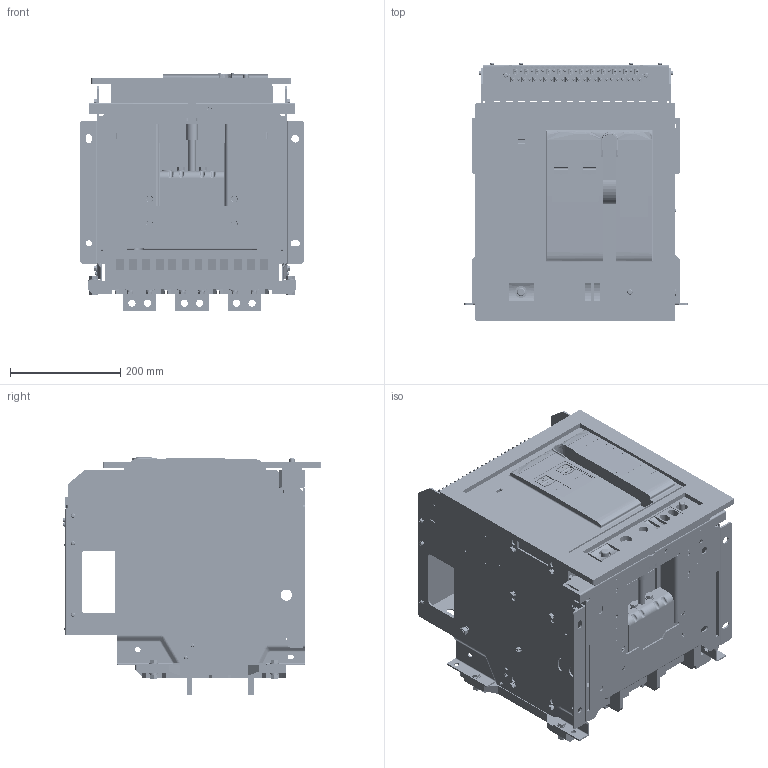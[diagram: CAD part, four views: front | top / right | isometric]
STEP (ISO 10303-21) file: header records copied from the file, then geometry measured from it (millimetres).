
FILE_DESCRIPTION (( 'STEP AP214' ), '1' );
FILE_NAME ('TENGEN_TGW1N-2000_3P_200A-630A_D.STEP', '2026-06-01T09:28:14', ( '' ), ( '' ), 'SwSTEP 2.0', 'SolidWorks 2024', '' );
FILE_SCHEMA (( 'AUTOMOTIVE_DESIGN' ));
Length unit declared in the file: millimetre
Products named in the file (34): 2000ZHAOKE_ASM_ASM_1_ASM_1_ASM.stp; PRT0004_1_1_1_1.stp; TENGEN_TGW45-2000_0002_ASM_1_AS_ASM.stp; PRT0009_1_1_1_1.stp; PRT0012_1_1_1_1.stp; ASM0002_ASM_1_ASM_1_ASM_1_ASM_1_ASM.stp; PRT0005_1_1_1_1.stp; TENGEN_TGW1N-2000_3P_200A-630A_D; PRT0023_1_1_1_1.stp; PRT0020_1_1_1_1.stp; PRT0015_1_1_1_1.stp; 8TZD_321_1011_43_1_1.stp; PRT0014_1_1_1_1.stp; MANIFOLD_SOLID_BREP_64659_12_1__3.stp; PRT0022_1_1_1_1.stp; 2000ZHAOKE_ASM_1_ASM_1_ASM_1_ASM.stp; 8TZD_005_1074_85_1_1.stp; PRT0016_1_1_1_1.stp; 2000A3P-CTSP_ASM_2_ASM_1_ASM_1_ASM.stp; PRT0013_1_1_1_1.stp; 8TZD_253_1324_21_1_1.stp; TENGEN_Рамка_2000_Drawer; PRT0021_1_1_1_1.stp; 8TZD_860_1386_5_1_1.stp; PRT0002_1_1_1_1.stp; PRT0018_1_1_1_1.stp; PRT0024_1_1_1_1.stp; 5TZD_005_1023_ASM_23_ASM_1_ASM__ASM_3.stp; PRT0007_1_1_1_1.stp; 8TZD_253_1325_22_1_1.stp; PRT0017_1_1_1_1.stp; PRT0025_1_1_1_1.stp; PRT0019_1_1_1_1.stp; ASM0001_ASM_1_ASM_1_ASM_1_ASM_1_ASM.stp
Assembly tree (33 placements, depth 6):
  TENGEN_TGW1N-2000_3P_200A-630A_D
    TENGEN_Рамка_2000_Drawer
    TENGEN_TGW45-2000_0002_ASM_1_AS_ASM.stp
      2000A3P-CTSP_ASM_2_ASM_1_ASM_1_ASM.stp
        ASM0001_ASM_1_ASM_1_ASM_1_ASM_1_ASM.stp
          ASM0002_ASM_1_ASM_1_ASM_1_ASM_1_ASM.stp
            PRT0002_1_1_1_1.stp
            PRT0004_1_1_1_1.stp
            PRT0005_1_1_1_1.stp
            PRT0007_1_1_1_1.stp
            PRT0009_1_1_1_1.stp
            PRT0012_1_1_1_1.stp
            PRT0013_1_1_1_1.stp
            PRT0014_1_1_1_1.stp
            PRT0015_1_1_1_1.stp
            PRT0016_1_1_1_1.stp
            PRT0017_1_1_1_1.stp
            PRT0018_1_1_1_1.stp
            PRT0019_1_1_1_1.stp
            PRT0020_1_1_1_1.stp
            PRT0021_1_1_1_1.stp
            PRT0022_1_1_1_1.stp
            PRT0023_1_1_1_1.stp
            PRT0024_1_1_1_1.stp
            PRT0025_1_1_1_1.stp
      2000ZHAOKE_ASM_ASM_1_ASM_1_ASM.stp
        2000ZHAOKE_ASM_1_ASM_1_ASM_1_ASM.stp
          5TZD_005_1023_ASM_23_ASM_1_ASM__ASM_3.stp
            8TZD_005_1074_85_1_1.stp
            8TZD_253_1325_22_1_1.stp
            8TZD_253_1324_21_1_1.stp
            8TZD_321_1011_43_1_1.stp
            8TZD_860_1386_5_1_1.stp
          MANIFOLD_SOLID_BREP_64659_12_1__3.stp
Bounding box: 406 x 469 x 431.92 mm (x, y, z)
Volume: 25089912 mm3; surface area: 3434887.3 mm2
Topology: 27 solids, 29 shells, 8901 faces, 24042 edges, 15395 vertices
Faces by surface type: plane 6650, cylinder 1714, bspline 226, torus 171, sphere 72, cone 68
Entity records: 296813 total; most frequent: CARTESIAN_POINT 74778, ORIENTED_EDGE 47616, DIRECTION 43394, EDGE_CURVE 23808, VECTOR 17036, LINE 17036, VERTEX_POINT 15395, AXIS2_PLACEMENT_3D 13179
